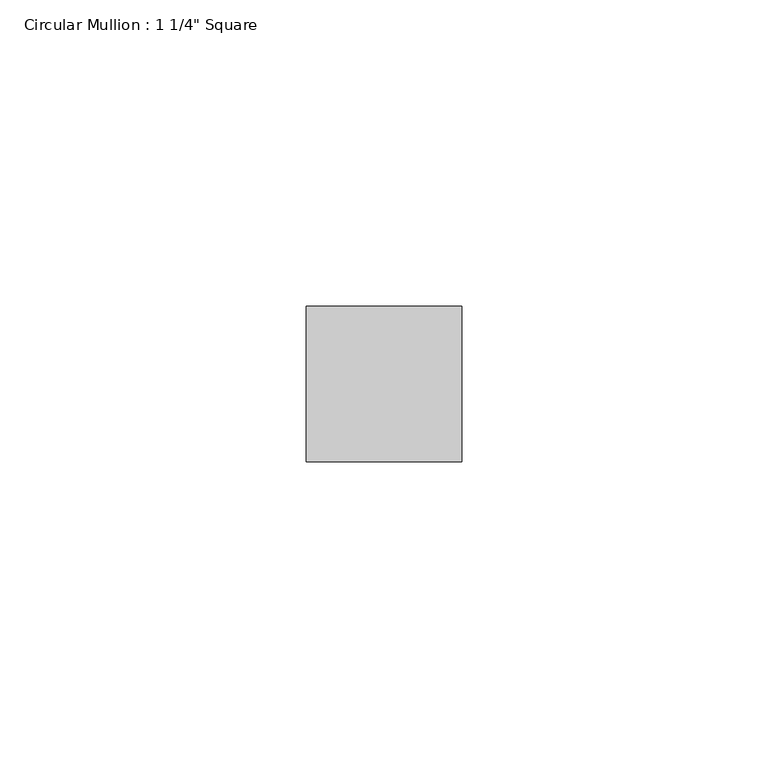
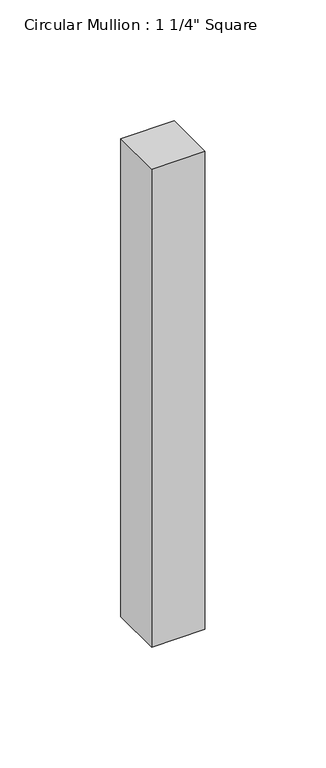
"""IFC4 building model written with IfcOpenShell, lengths in millimetres: member geometry."""

from ifc_helpers import new_model, si_unit, frame, origin, place, context, project, spatial, polyline, outline, extrude, source, transform, mapped, element, save


def member_387c7860(model_context):
    return source(origin(), model_context, "Body", "SweptSolid", [
        extrude(outline(polyline([(0.0, 12.7), (0.0, -12.7), (-25.4, -12.7), (-25.4, 12.7), (0.0, 12.7)])), frame((0.0, 0.0, -241.2999997), z_axis=(0.0, 0.0, 1.0), x_axis=(1.0, 0.0, 0.0)), (0.0, 0.0, 1.0), 241.2999997),
    ])


if __name__ == "__main__":
    model = new_model("IFC4")
    model_context = context("Model", 3, world=origin())
    ifc_project = project(units=[si_unit("LENGTHUNIT", "METRE", prefix="MILLI")], contexts=[model_context])
    site = spatial("IfcSite", under=ifc_project)
    building = spatial("IfcBuilding", under=site)
    placement = place(None, origin())
    member_shape = member_387c7860(model_context)
    element("IfcMember", 1, ObjectType="Circular Mullion : 1 1/4\" Square", at=placement, inside=building, context=model_context, shape_type="MappedRepresentation", body=[
        mapped(member_shape, transform((0.0, 0.0, 0.0), x_axis=(1.0, 0.0, 0.0), y_axis=(0.0, 1.0, 0.0), z_axis=(0.0, 0.0, 1.0))),
    ])
    save(model, "model.ifc")
